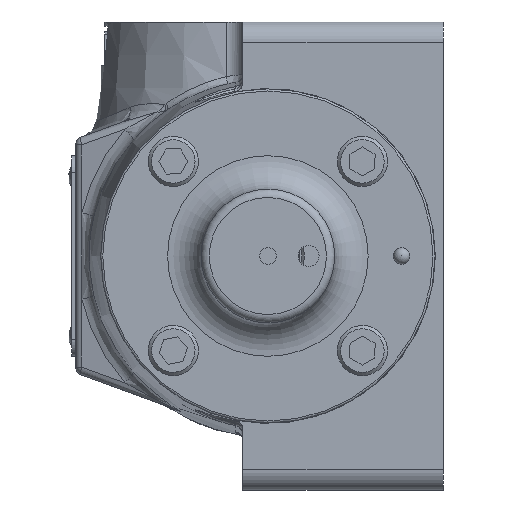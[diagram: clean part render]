
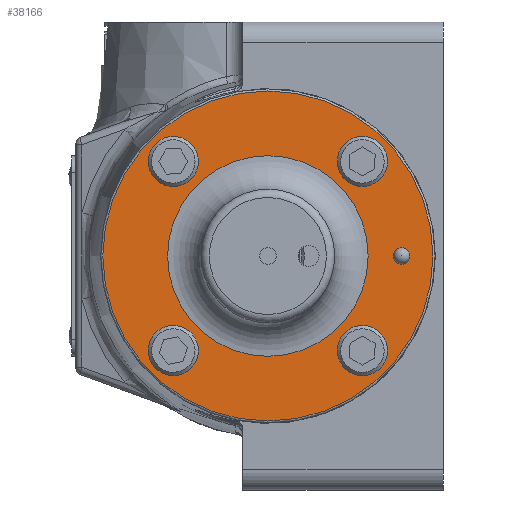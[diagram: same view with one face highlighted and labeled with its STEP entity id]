
A CAD part, left-side view. The second image highlights one B-rep face of the part: STEP entity #38166.
In plain terms, the highlighted planar face has unit normal (-1, 0, 0).
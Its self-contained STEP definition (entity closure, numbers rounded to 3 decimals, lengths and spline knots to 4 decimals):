
#2329=FACE_BOUND('',#6426,.T.);
#2330=FACE_BOUND('',#6427,.T.);
#2331=FACE_BOUND('',#6428,.T.);
#2332=FACE_BOUND('',#6429,.T.);
#2333=FACE_BOUND('',#6430,.T.);
#2334=FACE_BOUND('',#6431,.T.);
#2861=PLANE('',#41213);
#4066=FACE_OUTER_BOUND('',#6425,.T.);
#6425=EDGE_LOOP('',(#27573));
#6426=EDGE_LOOP('',(#27574));
#6427=EDGE_LOOP('',(#27575));
#6428=EDGE_LOOP('',(#27576));
#6429=EDGE_LOOP('',(#27577));
#6430=EDGE_LOOP('',(#27578));
#6431=EDGE_LOOP('',(#27579));
#8745=CIRCLE('',#41141,1.905);
#8754=CIRCLE('',#41155,3.1353);
#8776=CIRCLE('',#41203,0.1588);
#8781=CIRCLE('',#41214,0.4763);
#8782=CIRCLE('',#41215,0.4763);
#8783=CIRCLE('',#41216,0.4763);
#8784=CIRCLE('',#41217,0.4763);
#15880=VERTEX_POINT('',#62632);
#15887=VERTEX_POINT('',#62655);
#15927=VERTEX_POINT('',#62783);
#15933=VERTEX_POINT('',#62804);
#15934=VERTEX_POINT('',#62806);
#15935=VERTEX_POINT('',#62808);
#15936=VERTEX_POINT('',#62810);
#20004=EDGE_CURVE('',#15880,#15880,#8745,.T.);
#20015=EDGE_CURVE('',#15887,#15887,#8754,.T.);
#20076=EDGE_CURVE('',#15927,#15927,#8776,.T.);
#20085=EDGE_CURVE('',#15933,#15933,#8781,.T.);
#20086=EDGE_CURVE('',#15934,#15934,#8782,.T.);
#20087=EDGE_CURVE('',#15935,#15935,#8783,.T.);
#20088=EDGE_CURVE('',#15936,#15936,#8784,.T.);
#27573=ORIENTED_EDGE('',*,*,#20015,.F.);
#27574=ORIENTED_EDGE('',*,*,#20085,.T.);
#27575=ORIENTED_EDGE('',*,*,#20086,.T.);
#27576=ORIENTED_EDGE('',*,*,#20087,.T.);
#27577=ORIENTED_EDGE('',*,*,#20088,.T.);
#27578=ORIENTED_EDGE('',*,*,#20076,.T.);
#27579=ORIENTED_EDGE('',*,*,#20004,.F.);
#38166=ADVANCED_FACE('',(#4066,#2329,#2330,#2331,#2332,#2333,#2334),#2861,
 .F.);
#41141=AXIS2_PLACEMENT_3D('',#62634,#47427,#47428);
#41155=AXIS2_PLACEMENT_3D('',#62657,#47457,#47458);
#41203=AXIS2_PLACEMENT_3D('',#62784,#47592,#47593);
#41213=AXIS2_PLACEMENT_3D('',#62803,#47616,#47617);
#41214=AXIS2_PLACEMENT_3D('',#62805,#47618,#47619);
#41215=AXIS2_PLACEMENT_3D('',#62807,#47620,#47621);
#41216=AXIS2_PLACEMENT_3D('',#62809,#47622,#47623);
#41217=AXIS2_PLACEMENT_3D('',#62811,#47624,#47625);
#47427=DIRECTION('center_axis',(-1.,0.,0.));
#47428=DIRECTION('ref_axis',(0.,0.,
-1.));
#47457=DIRECTION('center_axis',(1.,0.,0.));
#47458=DIRECTION('ref_axis',(0.,0.,
-1.));
#47592=DIRECTION('center_axis',(1.,0.,0.));
#47593=DIRECTION('ref_axis',(0.,0.,
-1.));
#47616=DIRECTION('center_axis',(1.,0.,0.));
#47617=DIRECTION('ref_axis',(0.,0.,
-1.));
#47618=DIRECTION('center_axis',(1.,0.,0.));
#47619=DIRECTION('ref_axis',(0.,-0.2,-0.98));
#47620=DIRECTION('center_axis',(1.,0.,0.));
#47621=DIRECTION('ref_axis',(0.,-0.004,
-1.));
#47622=DIRECTION('center_axis',(1.,0.,0.));
#47623=DIRECTION('ref_axis',(0.,-0.488,-0.873));
#47624=DIRECTION('center_axis',(1.,0.,0.));
#47625=DIRECTION('ref_axis',(0.,-1.,-0.02));
#62632=CARTESIAN_POINT('',(-6.1074,0.,1.905));
#62634=CARTESIAN_POINT('Origin',(-6.1074,0.,0.));
#62655=CARTESIAN_POINT('',(-6.1074,0.,3.1353));
#62657=CARTESIAN_POINT('Origin',(-6.1074,0.,0.));
#62783=CARTESIAN_POINT('',(-6.1074,-2.54,-0.1588));
#62784=CARTESIAN_POINT('Origin',(-6.1074,-2.54,0.));
#62803=CARTESIAN_POINT('Origin',(-6.1074,0.,0.));
#62804=CARTESIAN_POINT('',(-6.1074,1.8912,-1.3294));
#62805=CARTESIAN_POINT('Origin',(-6.1074,1.7961,-1.7961));
#62806=CARTESIAN_POINT('',(-6.1074,1.798,2.2723));
#62807=CARTESIAN_POINT('Origin',(-6.1074,1.7961,1.7961));
#62808=CARTESIAN_POINT('',(-6.1074,-1.5638,2.2119));
#62809=CARTESIAN_POINT('Origin',(-6.1074,-1.7961,1.7961));
#62810=CARTESIAN_POINT('',(-6.1074,-1.3199,-1.7864));
#62811=CARTESIAN_POINT('Origin',(-6.1074,-1.7961,-1.7961));
